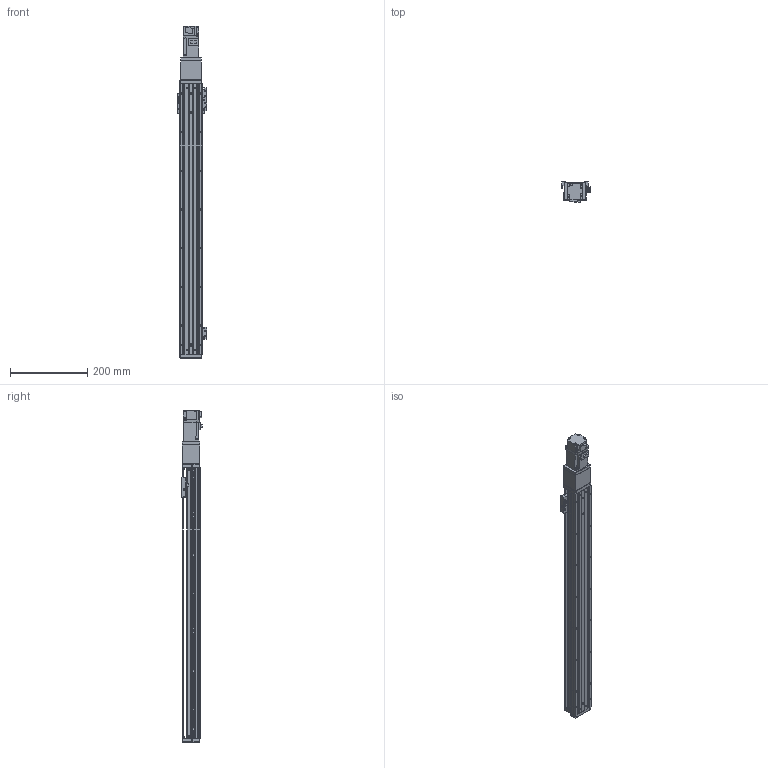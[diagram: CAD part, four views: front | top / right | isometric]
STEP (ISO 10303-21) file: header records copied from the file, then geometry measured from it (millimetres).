
FILE_DESCRIPTION (( 'STEP AP203' ), '1' );
FILE_NAME ('KTHA50-600-BC-M10-C4L.step', '2022-03-19T07:04:01', ( '微软用户' ), ( '微软中国' ), 'SwSTEP 2.0', 'SolidWorks 2020', '' );
FILE_SCHEMA (( 'CONFIG_CONTROL_DESIGN' ));
Length unit declared in the file: millimetre
Products named in the file (18): KTHA50-001_700; CTHA60-017; CTHA50-013; KTHA50-002; GBT 70.1-M4×12; HG-KR13（三菱）; KTHA50-004; CTHA60-016; KTHA50-600-BC-M10-C4L; KTHA50-005; CTHA60-021; EE_SX911P_R; GB¨uT 70.2-M3¡Á6_M3¡Á6; GBT 70.3-M3℅6; GBT77-2000 M3×3; CTHA50-027; GBT 70.1-M3℅6; CTHA50-006-2_CTHA60-006-2
Assembly tree (52 placements, depth 2):
  KTHA50-600-BC-M10-C4L
    KTHA50-001_700
    KTHA50-002
    KTHA50-004
    KTHA50-005
    GB¨uT 70.2-M3¡Á6_M3¡Á6  x6
    EE_SX911P_R  x3
    GBT77-2000 M3×3  x6
    GBT 70.1-M3℅6  x6
    CTHA60-017  x3
    GBT 70.1-M4×12  x10
    CTHA60-016  x2
    CTHA60-021  x2
    GBT 70.3-M3℅6  x6
    CTHA50-027
    CTHA50-006-2_CTHA60-006-2
    CTHA50-013
    HG-KR13（三菱）
Bounding box: 75.22 x 53.3 x 858.6 mm (x, y, z)
Volume: 1425565.7 mm3; surface area: 364410.2 mm2
Topology: 55 solids, 55 shells, 2206 faces, 5234 edges, 3208 vertices
Faces by surface type: plane 1256, cylinder 524, cone 322, torus 88, sphere 16
Entity records: 36186 total; most frequent: CARTESIAN_POINT 5914, DIRECTION 5840, ORIENTED_EDGE 5540, EDGE_CURVE 2770, AXIS2_PLACEMENT_3D 1947, VECTOR 1946, LINE 1946, VERTEX_POINT 1741
